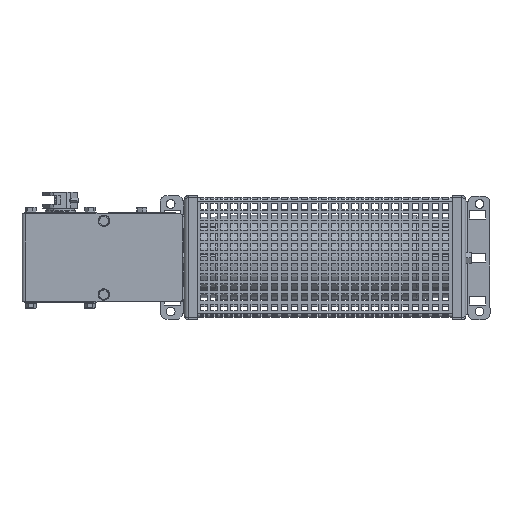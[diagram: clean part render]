
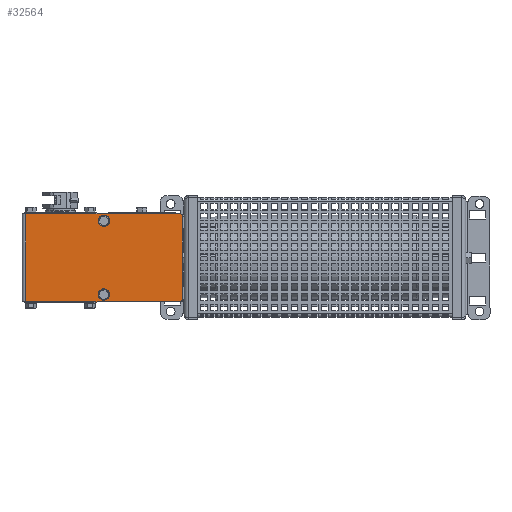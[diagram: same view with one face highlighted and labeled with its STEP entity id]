
A CAD part, left-side view. The second image highlights one B-rep face of the part: STEP entity #32564.
In plain terms, the highlighted planar face has unit normal (-1, 0, 0) as drawn and (0, 1, 0) by its records, which use the part's own axes.
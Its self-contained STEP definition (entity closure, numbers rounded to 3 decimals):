
#32433 = EDGE_CURVE ( 'NONE', #32486, #32474, #142594, .T. ) ;
#32435 = EDGE_CURVE ( 'NONE', #32489, #32490, #142634, .T. ) ;
#32472 = EDGE_CURVE ( 'NONE', #32493, #32507, #142894, .T. ) ;
#32474 = VERTEX_POINT ( 'NONE', #142872 ) ;
#32486 = VERTEX_POINT ( 'NONE', #143048 ) ;
#32489 = VERTEX_POINT ( 'NONE', #143007 ) ;
#32490 = VERTEX_POINT ( 'NONE', #143070 ) ;
#32493 = VERTEX_POINT ( 'NONE', #143052 ) ;
#32507 = VERTEX_POINT ( 'NONE', #143248 ) ;
#32515 = EDGE_CURVE ( 'NONE', #32551, #32547, #143422, .T. ) ;
#32547 = VERTEX_POINT ( 'NONE', #143520 ) ;
#32551 = VERTEX_POINT ( 'NONE', #143560 ) ;
#32557 = EDGE_LOOP ( 'NONE', ( #32580, #32590, #32570, #32565, #32660, #32578 ) ) ;
#32564 = ADVANCED_FACE ( 'NONE', ( #143644, #143459, #143672 ), #143669, .F. ) ;
#32565 = ORIENTED_EDGE ( 'NONE', *, *, #32600, .T. ) ;
#32566 = ORIENTED_EDGE ( 'NONE', *, *, #32667, .T. ) ;
#32568 = EDGE_CURVE ( 'NONE', #32493, #32547, #143647, .T. ) ;
#32570 = ORIENTED_EDGE ( 'NONE', *, *, #32595, .T. ) ;
#32576 = EDGE_CURVE ( 'NONE', #32591, #32551, #143606, .T. ) ;
#32578 = ORIENTED_EDGE ( 'NONE', *, *, #32515, .T. ) ;
#32580 = ORIENTED_EDGE ( 'NONE', *, *, #32568, .F. ) ;
#32590 = ORIENTED_EDGE ( 'NONE', *, *, #32472, .T. ) ;
#32591 = VERTEX_POINT ( 'NONE', #143753 ) ;
#32595 = EDGE_CURVE ( 'NONE', #32507, #32603, #143804, .T. ) ;
#32600 = EDGE_CURVE ( 'NONE', #32603, #32591, #143737, .T. ) ;
#32603 = VERTEX_POINT ( 'NONE', #144019 ) ;
#32657 = ORIENTED_EDGE ( 'NONE', *, *, #32665, .T. ) ;
#32659 = EDGE_LOOP ( 'NONE', ( #32566, #32670 ) ) ;
#32660 = ORIENTED_EDGE ( 'NONE', *, *, #32576, .T. ) ;
#32664 = EDGE_LOOP ( 'NONE', ( #32657, #32666 ) ) ;
#32665 = EDGE_CURVE ( 'NONE', #32490, #32489, #144541, .T. ) ;
#32666 = ORIENTED_EDGE ( 'NONE', *, *, #32435, .T. ) ;
#32667 = EDGE_CURVE ( 'NONE', #32474, #32486, #144554, .T. ) ;
#32670 = ORIENTED_EDGE ( 'NONE', *, *, #32433, .T. ) ;
#142594 = CIRCLE ( 'NONE', #142850, 2.25 ) ;
#142634 = CIRCLE ( 'NONE', #142806, 2.25 ) ;
#142795 = DIRECTION ( 'NONE',  ( -1., 0., 0. ) ) ;
#142800 = DIRECTION ( 'NONE',  ( 0., -1., 0. ) ) ;
#142804 = CARTESIAN_POINT ( 'NONE',  ( -27.5, 103.7, -61. ) ) ;
#142806 = AXIS2_PLACEMENT_3D ( 'NONE', #142804, #142800, #142795 ) ;
#142819 = DIRECTION ( 'NONE',  ( -1., 0., 0. ) ) ;
#142823 = DIRECTION ( 'NONE',  ( 0., -1., 0. ) ) ;
#142826 = CARTESIAN_POINT ( 'NONE',  ( 27.5, 103.7, -61. ) ) ;
#142850 = AXIS2_PLACEMENT_3D ( 'NONE', #142826, #142823, #142819 ) ;
#142872 = CARTESIAN_POINT ( 'NONE',  ( 25.25, 103.7, -61. ) ) ;
#142894 = LINE ( 'NONE', #143153, #143131 ) ;
#143007 = CARTESIAN_POINT ( 'NONE',  ( -25.25, 103.7, -61. ) ) ;
#143048 = CARTESIAN_POINT ( 'NONE',  ( 29.75, 103.7, -61. ) ) ;
#143052 = CARTESIAN_POINT ( 'NONE',  ( 32.75, 103.7, -2.7 ) ) ;
#143070 = CARTESIAN_POINT ( 'NONE',  ( -29.75, 103.7, -61. ) ) ;
#143129 = DIRECTION ( 'NONE',  ( 0., 0., -1. ) ) ;
#143131 = VECTOR ( 'NONE', #143129, 1000. ) ;
#143153 = CARTESIAN_POINT ( 'NONE',  ( 32.75, 103.7, -118. ) ) ;
#143248 = CARTESIAN_POINT ( 'NONE',  ( 32.75, 103.7, -118. ) ) ;
#143415 = DIRECTION ( 'NONE',  ( 0., 0., 1. ) ) ;
#143417 = VECTOR ( 'NONE', #143415, 1000. ) ;
#143419 = CARTESIAN_POINT ( 'NONE',  ( -32.75, 103.7, -118. ) ) ;
#143422 = LINE ( 'NONE', #143419, #143417 ) ;
#143459 = FACE_BOUND ( 'NONE', #32664, .T. ) ;
#143480 = DIRECTION ( 'NONE',  ( -1., 0., 0. ) ) ;
#143520 = CARTESIAN_POINT ( 'NONE',  ( -32.75, 103.7, -2.7 ) ) ;
#143560 = CARTESIAN_POINT ( 'NONE',  ( -32.75, 103.7, -118. ) ) ;
#143589 = DIRECTION ( 'NONE',  ( -1., 0., 0. ) ) ;
#143591 = VECTOR ( 'NONE', #143589, 1000. ) ;
#143597 = DIRECTION ( 'NONE',  ( -0.707, 0., 0.707 ) ) ;
#143599 = VECTOR ( 'NONE', #143597, 1000. ) ;
#143603 = CARTESIAN_POINT ( 'NONE',  ( -32.75, 103.7, -118. ) ) ;
#143606 = LINE ( 'NONE', #143603, #143599 ) ;
#143609 = CARTESIAN_POINT ( 'NONE',  ( 32.75, 103.7, -2.7 ) ) ;
#143633 = AXIS2_PLACEMENT_3D ( 'NONE', #143726, #143694, #143480 ) ;
#143644 = FACE_OUTER_BOUND ( 'NONE', #32557, .T. ) ;
#143647 = LINE ( 'NONE', #143609, #143591 ) ;
#143669 = PLANE ( 'NONE',  #143633 ) ;
#143672 = FACE_BOUND ( 'NONE', #32659, .T. ) ;
#143694 = DIRECTION ( 'NONE',  ( 0., -1., 0. ) ) ;
#143726 = CARTESIAN_POINT ( 'NONE',  ( 32.75, 103.7, -119.5 ) ) ;
#143737 = LINE ( 'NONE', #144002, #143997 ) ;
#143753 = CARTESIAN_POINT ( 'NONE',  ( -31.25, 103.7, -119.5 ) ) ;
#143801 = CARTESIAN_POINT ( 'NONE',  ( 31.25, 103.7, -119.5 ) ) ;
#143804 = LINE ( 'NONE', #143801, #144070 ) ;
#143996 = DIRECTION ( 'NONE',  ( -1., 0., 0. ) ) ;
#143997 = VECTOR ( 'NONE', #143996, 1000. ) ;
#144002 = CARTESIAN_POINT ( 'NONE',  ( -31.25, 103.7, -119.5 ) ) ;
#144019 = CARTESIAN_POINT ( 'NONE',  ( 31.25, 103.7, -119.5 ) ) ;
#144068 = DIRECTION ( 'NONE',  ( -0.707, 0., -0.707 ) ) ;
#144070 = VECTOR ( 'NONE', #144068, 1000. ) ;
#144461 = DIRECTION ( 'NONE',  ( -1., 0., 0. ) ) ;
#144466 = DIRECTION ( 'NONE',  ( 0., -1., 0. ) ) ;
#144469 = AXIS2_PLACEMENT_3D ( 'NONE', #144511, #144466, #144461 ) ;
#144492 = DIRECTION ( 'NONE',  ( -1., 0., 0. ) ) ;
#144496 = DIRECTION ( 'NONE',  ( 0., -1., 0. ) ) ;
#144498 = CARTESIAN_POINT ( 'NONE',  ( -27.5, 103.7, -61. ) ) ;
#144501 = AXIS2_PLACEMENT_3D ( 'NONE', #144498, #144496, #144492 ) ;
#144511 = CARTESIAN_POINT ( 'NONE',  ( 27.5, 103.7, -61. ) ) ;
#144541 = CIRCLE ( 'NONE', #144501, 2.25 ) ;
#144554 = CIRCLE ( 'NONE', #144469, 2.25 ) ;
